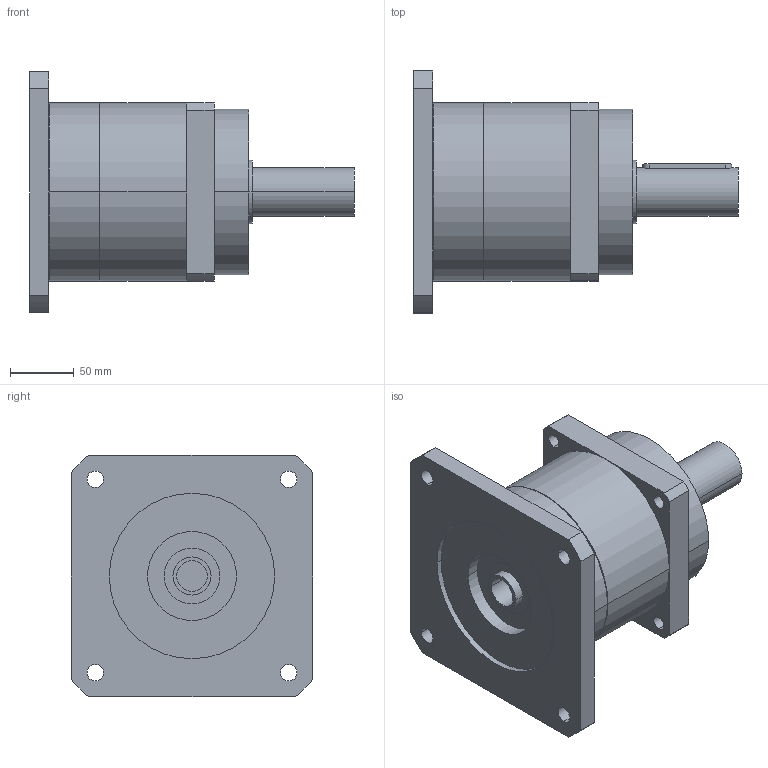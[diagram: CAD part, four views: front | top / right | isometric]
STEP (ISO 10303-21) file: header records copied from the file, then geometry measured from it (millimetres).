
FILE_DESCRIPTION(('CoCreate Modeling STEP Export'),'2;1');
FILE_NAME('GPR150_ig-3-4-5-7_38_B5_24_P13.stp','2014-08-19T16:42:30',(''),(''),'CoCreate Modeling STEP processor for AP214 (Solid Model)','CoCreate Modeling 16.00C 25-Feb-2009 (C) Parametric Technology GmbH','');
FILE_SCHEMA(('AUTOMOTIVE_DESIGN { 1 0 10303 214 1 1 1 1 }'));
Length unit declared in the file: millimetre
Products named in the file (2): GPR150_ig-3-4-5-7_38_B5_24_P13
Assembly tree (1 placements, depth 2):
  GPR150_ig-3-4-5-7_38_B5_24_P13
    GPR150_ig-3-4-5-7_38_B5_24_P13
Bounding box: 255 x 190 x 190 mm (x, y, z)
Volume: 2949095.1 mm3; surface area: 185192.9 mm2
Topology: 1 solids, 1 shells, 81 faces, 220 edges, 150 vertices
Faces by surface type: cylinder 48, plane 27, cone 6
Entity records: 2325 total; most frequent: ORIENTED_EDGE 436, CARTESIAN_POINT 431, DIRECTION 330, EDGE_CURVE 218, VERTEX_POINT 150, AXIS2_PLACEMENT_3D 121, EDGE_LOOP 108, VECTOR 88
